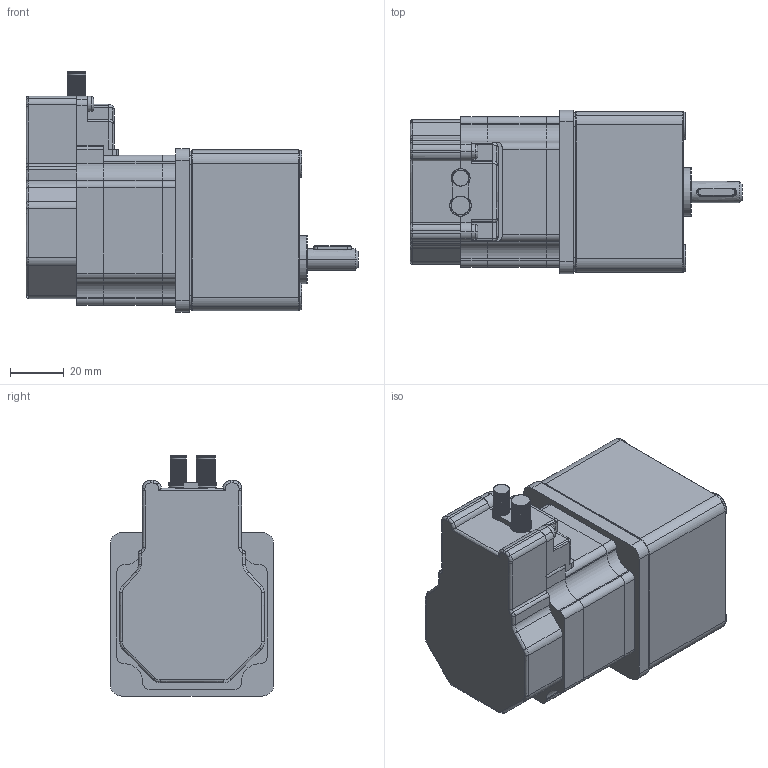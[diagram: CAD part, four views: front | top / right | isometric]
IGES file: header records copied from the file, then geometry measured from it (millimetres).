
Start section: IMSI TurboCAD v14.0
Global section: author: NULL; organization: NULL; date: 20110918.160819; units: millimetre
Bounding box: 123.92 x 61.04 x 89.63 mm (x, y, z)
Surface area: 71395 mm2 (no closed solid volume)
Topology: 0 solids, 0 shells, 948 faces, 5208 edges, 5204 vertices
Faces by surface type: extrusion 591, revolution 324, bspline 33
